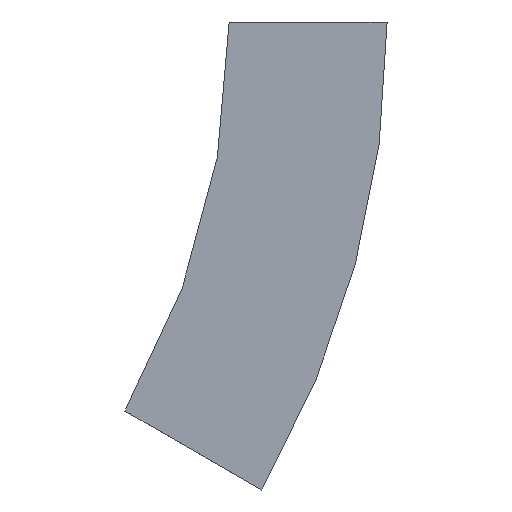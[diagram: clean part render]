
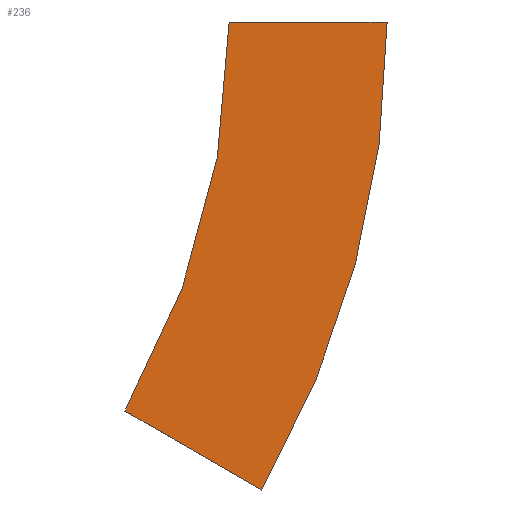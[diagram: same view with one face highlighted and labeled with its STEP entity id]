
A CAD part, left-side view. The second image highlights one B-rep face of the part: STEP entity #236.
In plain terms, the highlighted planar face has unit normal (-1, 0, 0).
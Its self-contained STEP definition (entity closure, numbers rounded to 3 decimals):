
#11 = VERTEX_POINT ( 'NONE', #476 ) ;
#26 = EDGE_CURVE ( 'NONE', #508, #285, #71, .T. ) ;
#46 = EDGE_CURVE ( 'NONE', #115, #11, #403, .T. ) ;
#58 = AXIS2_PLACEMENT_3D ( 'NONE', #319, #465, #89 ) ;
#60 = DIRECTION ( 'NONE',  ( 0., 0., -1. ) ) ;
#71 = LINE ( 'NONE', #297, #113 ) ;
#89 = DIRECTION ( 'NONE',  ( 0., 0., 1. ) ) ;
#106 = AXIS2_PLACEMENT_3D ( 'NONE', #563, #148, #60 ) ;
#113 = VECTOR ( 'NONE', #486, 1000. ) ;
#115 = VERTEX_POINT ( 'NONE', #301 ) ;
#148 = DIRECTION ( 'NONE',  ( 1., 0., 0. ) ) ;
#175 = ORIENTED_EDGE ( 'NONE', *, *, #320, .F. ) ;
#186 = EDGE_LOOP ( 'NONE', ( #336, #175, #251, #334 ) ) ;
#187 = CARTESIAN_POINT ( 'NONE',  ( -103.5, 98.5, 0. ) ) ;
#232 = FACE_OUTER_BOUND ( 'NONE', #186, .T. ) ;
#236 = ADVANCED_FACE ( 'NONE', ( #232 ), #595, .T. ) ;
#251 = ORIENTED_EDGE ( 'NONE', *, *, #46, .F. ) ;
#285 = VERTEX_POINT ( 'NONE', #387 ) ;
#297 = CARTESIAN_POINT ( 'NONE',  ( -103.5, -4.124, -59.25 ) ) ;
#299 = CARTESIAN_POINT ( 'NONE',  ( -103.5, 0., 0. ) ) ;
#301 = CARTESIAN_POINT ( 'NONE',  ( -103.5, 0., 0. ) ) ;
#315 = DIRECTION ( 'NONE',  ( 0., 0., 1. ) ) ;
#319 = CARTESIAN_POINT ( 'NONE',  ( -103.5, 98.5, 0. ) ) ;
#320 = EDGE_CURVE ( 'NONE', #11, #508, #515, .T. ) ;
#334 = ORIENTED_EDGE ( 'NONE', *, *, #507, .F. ) ;
#336 = ORIENTED_EDGE ( 'NONE', *, *, #26, .F. ) ;
#379 = CIRCLE ( 'NONE', #469, 98.5 ) ;
#387 = CARTESIAN_POINT ( 'NONE',  ( -103.5, 13.196, -49.25 ) ) ;
#401 = DIRECTION ( 'NONE',  ( 0., -1., 0. ) ) ;
#403 = LINE ( 'NONE', #299, #473 ) ;
#415 = DIRECTION ( 'NONE',  ( -1., 0., 0. ) ) ;
#454 = CARTESIAN_POINT ( 'NONE',  ( -103.5, -4.124, -59.25 ) ) ;
#465 = DIRECTION ( 'NONE',  ( -1., 0., 0. ) ) ;
#469 = AXIS2_PLACEMENT_3D ( 'NONE', #187, #415, #315 ) ;
#473 = VECTOR ( 'NONE', #401, 1000. ) ;
#476 = CARTESIAN_POINT ( 'NONE',  ( -103.5, -20., 0. ) ) ;
#486 = DIRECTION ( 'NONE',  ( 0., 0.866, 0.5 ) ) ;
#507 = EDGE_CURVE ( 'NONE', #285, #115, #379, .T. ) ;
#508 = VERTEX_POINT ( 'NONE', #454 ) ;
#515 = CIRCLE ( 'NONE', #106, 118.5 ) ;
#563 = CARTESIAN_POINT ( 'NONE',  ( -103.5, 98.5, 0. ) ) ;
#595 = PLANE ( 'NONE',  #58 ) ;
